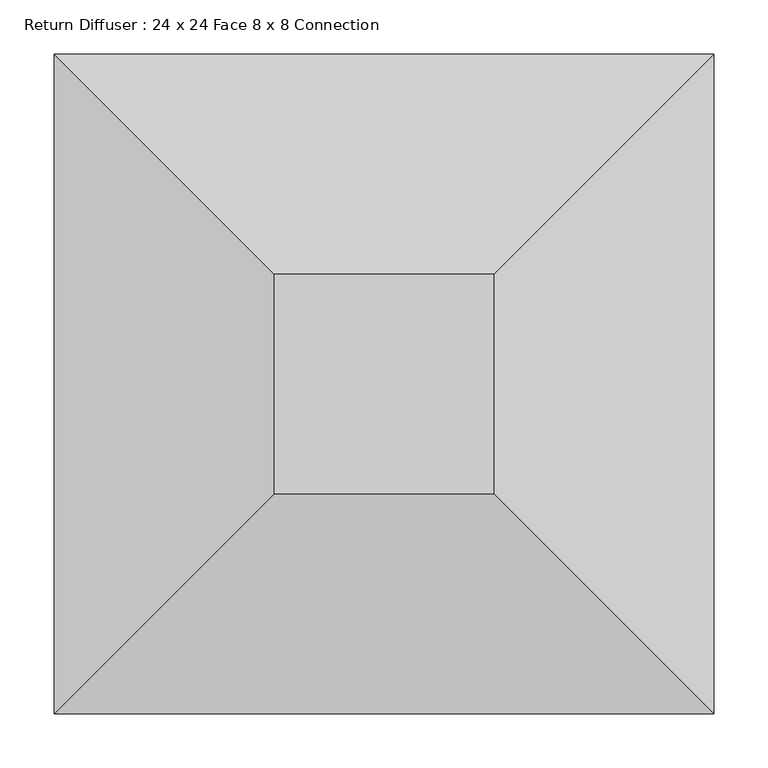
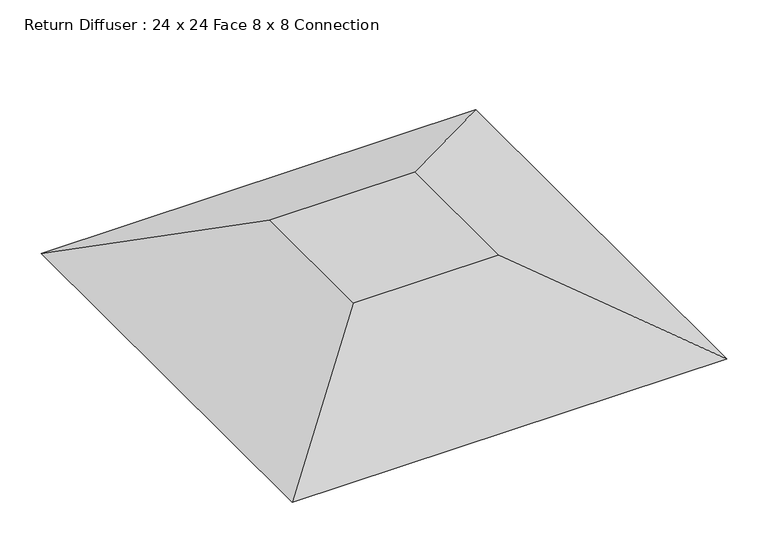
"""IFC4 building model written with IfcOpenShell, lengths in millimetres: air terminal geometry, Return Diffuser : 24 x 24 Face 8 x 8 Connection."""

import ifcopenshell
import ifcopenshell.guid

model = None  # the IFC model being written
_history = None  # IfcOwnerHistory: only IFC2X3 demands one
_inside = {}  # id of a spatial element -> (the spatial element, [elements in it])
_under = {}  # id of a project, library or spatial element -> (it, [spatial elements below it])
_declared = {}  # id of a project -> (the project, [libraries it declares])
_typed = {}  # id of a type object -> (the type object, [elements of that type])
_made_of = {}  # id of a material, layer set ... -> (it, [elements and type objects made of it])


def new_model(schema):
    """Start an empty IFC model of exactly this schema.

    Asked for "IFC4X3", IfcOpenShell would pick the latest addendum, in which some entities
    have other attributes; the version numbers below select the first issue.
    IFC2X3 requires an IfcOwnerHistory on every rooted entity: one is made here for all.
    """
    global model, _history
    if schema == "IFC4X3":
        model = ifcopenshell.file(schema_version=(4, 3, 0, 0))
    else:
        model = ifcopenshell.file(schema=schema)
    _inside.clear()
    _under.clear()
    _declared.clear()
    _typed.clear()
    _made_of.clear()
    _history = None
    if model.schema == "IFC2X3":
        org = make("IfcOrganization", Name="unknown")
        user = make(
            "IfcPersonAndOrganization",
            ThePerson=make("IfcPerson", FamilyName="unknown"),
            TheOrganization=org,
        )
        app = make(
            "IfcApplication",
            ApplicationDeveloper=org,
            Version="unknown",
            ApplicationFullName="unknown",
            ApplicationIdentifier="unknown",
        )
        _history = make(
            "IfcOwnerHistory",
            OwningUser=user,
            OwningApplication=app,
            ChangeAction="ADDED",
            CreationDate=0,
        )
    return model


def make(cls, **values):
    """One entity of the class cls with the attributes given. An attribute that is None is left unset."""
    return model.create_entity(
        cls, **{name: value for name, value in values.items() if value is not None}
    )


def rooted(cls, **values):
    """An entity with a GlobalId (a new one), such as an element, a storey or a relation."""
    return make(cls, GlobalId=ifcopenshell.guid.new(), OwnerHistory=_history, **values)


def si_unit(unit_type, name, prefix=None):
    """IfcSIUnit, for example si_unit("LENGTHUNIT", "METRE", prefix="MILLI")."""
    return make("IfcSIUnit", UnitType=unit_type, Prefix=prefix, Name=name)


def assignment(units):
    """IfcUnitAssignment: the units of a project."""
    return None if units is None else make("IfcUnitAssignment", Units=units)


def point(xyz):
    """IfcCartesianPoint."""
    return None if xyz is None else make("IfcCartesianPoint", Coordinates=xyz)


def direction(xyz):
    """IfcDirection."""
    return None if xyz is None else make("IfcDirection", DirectionRatios=xyz)


def frame(location, z_axis=None, x_axis=None):
    """IfcAxis2Placement3D, a coordinate frame: its origin and axes. An axis left out is left unset."""
    return make(
        "IfcAxis2Placement3D",
        Location=point(location),
        Axis=direction(z_axis),
        RefDirection=direction(x_axis),
    )


def origin():
    """The frame at (0, 0, 0) with its axes left unset."""
    return frame((0.0, 0.0, 0.0))


def place(relative_to, where):
    """IfcLocalPlacement: puts the frame where relative to a parent placement (None: the world)."""
    return make(
        "IfcLocalPlacement", PlacementRelTo=relative_to, RelativePlacement=where
    )


def context(
    kind, dimensions, precision=None, world=None, true_north=None, identifier=None
):
    """IfcGeometricRepresentationContext, for example the 3D "Model" context."""
    return make(
        "IfcGeometricRepresentationContext",
        ContextIdentifier=identifier,
        ContextType=kind,
        CoordinateSpaceDimension=dimensions,
        Precision=precision,
        WorldCoordinateSystem=world,
        TrueNorth=true_north,
    )


def project(units=None, contexts=None):
    """IfcProject with its units and contexts."""
    return rooted(
        "IfcProject",
        Name="project",
        RepresentationContexts=contexts,
        UnitsInContext=assignment(units),
    )


def spatial(cls, under=None, at=None, **own):
    """A site, building, storey or space (cls), placed at a placement, below another one or the project."""
    s = rooted(cls, ObjectPlacement=at, **own)
    if under is not None:
        _under.setdefault(under.id(), (under, []))[1].append(s)
    return s


def faces_of(points, faces, orient=None, outer=None):
    """IfcFace entities. A face is a list of loops; a loop is a list of indices into points, from 0.

    orient and outer hold one flag for each loop. By default every Orientation is true, the
    first loop of a face is its IfcFaceOuterBound and the others are IfcFaceBound.
    """
    made = []
    for i, loops in enumerate(faces):
        bounds = []
        for j, loop in enumerate(loops):
            is_outer = j == 0 if outer is None else outer[i][j]
            bounds.append(
                make(
                    "IfcFaceOuterBound" if is_outer else "IfcFaceBound",
                    Bound=make("IfcPolyLoop", Polygon=[points[k] for k in loop]),
                    Orientation=True if orient is None else orient[i][j],
                )
            )
        made.append(make("IfcFace", Bounds=bounds))
    return made


def faceted_brep(points, faces, orient=None, outer=None, voids=None):
    """IfcFacetedBrep: a solid bounded by flat faces; with voids (closed shells), ...WithVoids."""
    shared = [point(p) for p in points]
    hull = make("IfcClosedShell", CfsFaces=faces_of(shared, faces, orient, outer))
    if voids is None:
        return make("IfcFacetedBrep", Outer=hull)
    return make(
        "IfcFacetedBrepWithVoids",
        Outer=hull,
        Voids=[
            make(cls, CfsFaces=faces_of(shared, fs, o, b)) for cls, fs, o, b in voids
        ],
    )


def shape(context_of_items, identifier, shape_type, items):
    """IfcShapeRepresentation: the items that make up one representation, for example the "Body"."""
    return make(
        "IfcShapeRepresentation",
        ContextOfItems=context_of_items,
        RepresentationIdentifier=identifier,
        RepresentationType=shape_type,
        Items=items,
    )


def source(mapping_origin, context_of_items, identifier, shape_type, items):
    """IfcRepresentationMap: a shape defined once, which mapped items show again and again."""
    return make(
        "IfcRepresentationMap",
        MappingOrigin=mapping_origin,
        MappedRepresentation=shape(context_of_items, identifier, shape_type, items),
    )


def transform(
    local_origin,
    x_axis=None,
    y_axis=None,
    z_axis=None,
    scale=None,
    scale2=None,
    scale3=None,
    uniform=True,
):
    """IfcCartesianTransformationOperator3D, or its non-uniform kind. x_axis, y_axis, z_axis: its Axis1, 2, 3."""
    if uniform:
        return make(
            "IfcCartesianTransformationOperator3D",
            Axis1=direction(x_axis),
            Axis2=direction(y_axis),
            LocalOrigin=point(local_origin),
            Scale=scale,
            Axis3=direction(z_axis),
        )
    return make(
        "IfcCartesianTransformationOperator3DnonUniform",
        Axis1=direction(x_axis),
        Axis2=direction(y_axis),
        LocalOrigin=point(local_origin),
        Scale=scale,
        Axis3=direction(z_axis),
        Scale2=scale2,
        Scale3=scale3,
    )


def mapped(mapping_source, mapping_target):
    """IfcMappedItem: shows the shape of a source again, moved by a transform."""
    return make(
        "IfcMappedItem", MappingSource=mapping_source, MappingTarget=mapping_target
    )


def made_of(thing, what):
    """Note that an element or type object is made of a material, layer set ...; save() writes the relation."""
    if what is not None:
        _made_of.setdefault(what.id(), (what, []))[1].append(thing)
    return thing


def element(
    cls,
    number,
    at=None,
    inside=None,
    cuts=None,
    type_object=None,
    material=None,
    context=None,
    identifier="Body",
    shape_type=None,
    held_by="IfcProductDefinitionShape",
    body=None,
    shapes=None,
    **own,
):
    """One element of the class cls, such as IfcWall. Its Tag is "e" and its number.

    at: its placement. inside: the storey or other place that contains it. cuts: it is an
    opening in that element (IfcRelVoidsElement). A single representation is given by context,
    identifier, shape_type and body (its items); several are given by shapes. held_by: the class
    of the entity that holds the representations. save() writes the other relations.
    """
    e = rooted(cls, Tag="e%d" % number, ObjectPlacement=at, **own)
    if body is not None:
        shapes = [shape(context, identifier, shape_type, body)]
    if shapes is not None:
        e.Representation = make(held_by, Representations=shapes)
    if inside is not None:
        _inside.setdefault(inside.id(), (inside, []))[1].append(e)
    if cuts is not None:
        rooted(
            "IfcRelVoidsElement", RelatingBuildingElement=cuts, RelatedOpeningElement=e
        )
    if type_object is not None:
        _typed.setdefault(type_object.id(), (type_object, []))[1].append(e)
    return made_of(e, material)


def aggregate(whole, parts):
    """IfcRelAggregates: a whole, such as a stair, and the parts it consists of."""
    return rooted("IfcRelAggregates", RelatingObject=whole, RelatedObjects=parts)


def save(model, path):
    """Write the relations noted so far, then the file.

    IfcRelAggregates (storeys below a building ...), IfcRelContainedInSpatialStructure (elements
    in a storey), IfcRelDefinesByType, IfcRelAssociatesMaterial and IfcRelDeclares: one each for
    every whole, place, type object, material and project.
    """
    for whole, parts in _under.values():
        aggregate(whole, parts)
    for where, things in _inside.values():
        rooted(
            "IfcRelContainedInSpatialStructure",
            RelatedElements=things,
            RelatingStructure=where,
        )
    for kind, things in _typed.values():
        rooted("IfcRelDefinesByType", RelatedObjects=things, RelatingType=kind)
    for what, things in _made_of.values():
        rooted("IfcRelAssociatesMaterial", RelatedObjects=things, RelatingMaterial=what)
    for by, libraries in _declared.values():
        rooted("IfcRelDeclares", RelatingContext=by, RelatedDefinitions=libraries)
    model.write(path)


def return_diffuser_24_x_24_face_8_x_8_connection_1cf4ec6c(model_context):
    return source(origin(), model_context, "Body", "Brep", [
        faceted_brep([(101.6, 101.6, 101.6), (-101.6, 101.6, 101.6), (-101.6, -101.6, 101.6), (101.6, -101.6, 101.6), (304.8, 304.8, 0.0), (304.8, -304.8, 0.0), (-304.8, -304.8, 0.0), (-304.8, 304.8, 0.0)], [[[0, 1, 2, 3]], [[4, 5, 6, 7]], [[4, 7, 1, 0]], [[7, 6, 2, 1]], [[6, 5, 3, 2]], [[5, 4, 0, 3]]]),
    ])


if __name__ == "__main__":
    model = new_model("IFC4")
    model_context = context("Model", 3, world=origin())
    ifc_project = project(units=[si_unit("LENGTHUNIT", "METRE", prefix="MILLI")], contexts=[model_context])
    site = spatial("IfcSite", under=ifc_project)
    building = spatial("IfcBuilding", under=site)
    placement = place(None, origin())
    return_diffuser_24_x_24_face_8_x_8_connection_shape = return_diffuser_24_x_24_face_8_x_8_connection_1cf4ec6c(model_context)
    element("IfcAirTerminal", 1, ObjectType="Return Diffuser : 24 x 24 Face 8 x 8 Connection", at=placement, inside=building, context=model_context, shape_type="MappedRepresentation", body=[
        mapped(return_diffuser_24_x_24_face_8_x_8_connection_shape, transform((0.0, 0.0, 0.0), x_axis=(1.0, 0.0, 0.0), y_axis=(0.0, 1.0, 0.0), z_axis=(0.0, 0.0, 1.0))),
    ])
    save(model, "model.ifc")
